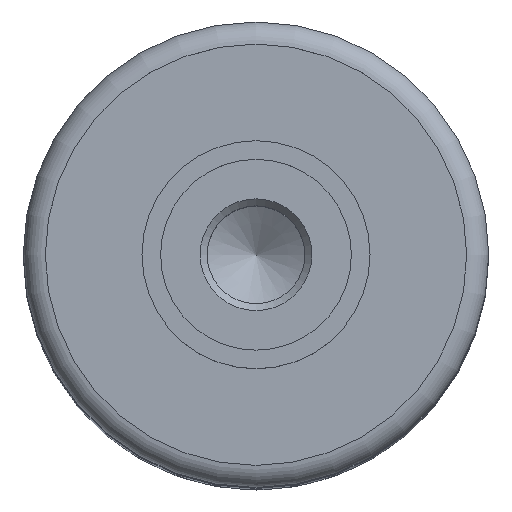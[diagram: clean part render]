
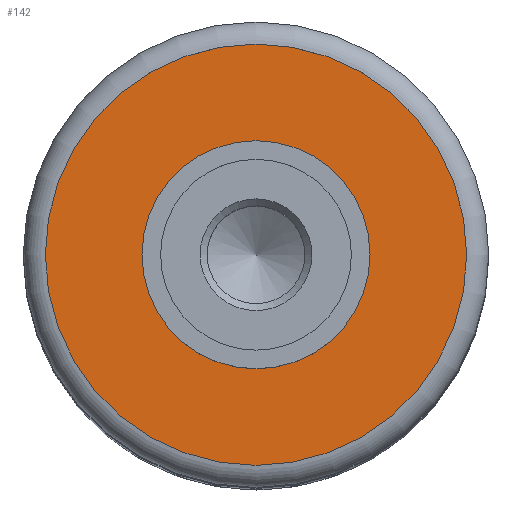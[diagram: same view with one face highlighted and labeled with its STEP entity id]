
A CAD part, top view. The second image highlights one B-rep face of the part: STEP entity #142.
In plain terms, the highlighted planar face has unit normal (0, 0, 1).
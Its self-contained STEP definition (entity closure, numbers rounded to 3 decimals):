
#142=ADVANCED_FACE('',(#261,#262),#263,.T.);
#261=FACE_BOUND('',#374,.T.);
#262=FACE_OUTER_BOUND('',#375,.T.);
#263=PLANE('',#376);
#374=EDGE_LOOP('',(#517));
#375=EDGE_LOOP('',(#518));
#376=AXIS2_PLACEMENT_3D('',#519,#520,#521);
#517=ORIENTED_EDGE('',*,*,#603,.F.);
#518=ORIENTED_EDGE('',*,*,#605,.T.);
#519=CARTESIAN_POINT('',(0.0,0.0,30.2));
#520=DIRECTION('',(0.0,0.0,1.0));
#521=DIRECTION('',(1.0,0.0,0.0));
#603=EDGE_CURVE('',#677,#677,#678,.T.);
#605=EDGE_CURVE('',#680,#680,#681,.T.);
#677=VERTEX_POINT('',#910);
#678=CIRCLE('',#911,4.9);
#680=VERTEX_POINT('',#913);
#681=CIRCLE('',#914,9.05);
#910=CARTESIAN_POINT('',(4.9,0.0,30.2));
#911=AXIS2_PLACEMENT_3D('',#987,#988,#989);
#913=CARTESIAN_POINT('',(9.05,0.0,30.2));
#914=AXIS2_PLACEMENT_3D('',#990,#991,#992);
#987=CARTESIAN_POINT('',(0.0,0.0,30.2));
#988=DIRECTION('',(0.0,0.0,1.0));
#989=DIRECTION('',(1.0,0.0,0.0));
#990=CARTESIAN_POINT('',(0.0,0.0,30.2));
#991=DIRECTION('',(0.0,0.0,1.0));
#992=DIRECTION('',(1.0,0.0,0.0));
